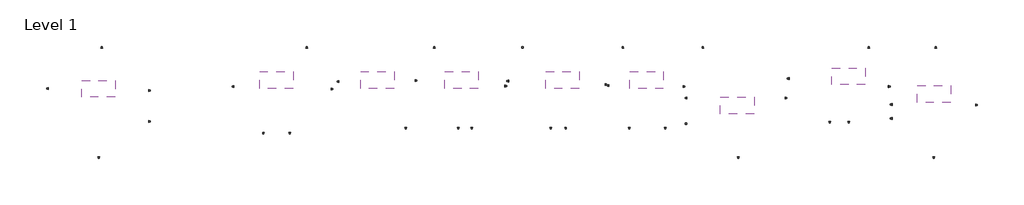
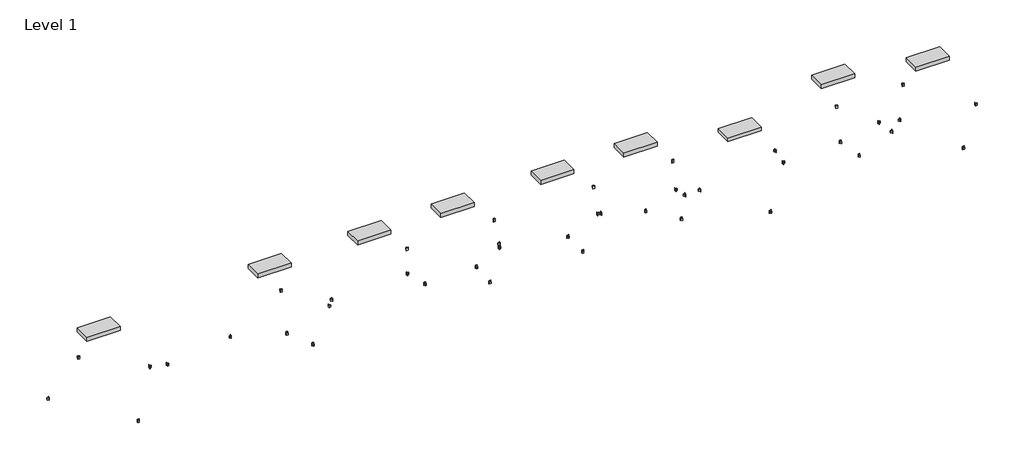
# One storey: 33 proxies, 9 light fixtures, 9 switching devices.
"""IFC4 building model written with IfcOpenShell, lengths in millimetres."""

import ifcopenshell
import ifcopenshell.guid

model = None  # the IFC model being written
_history = None  # IfcOwnerHistory: only IFC2X3 demands one
_inside = {}  # id of a spatial element -> (the spatial element, [elements in it])
_under = {}  # id of a project, library or spatial element -> (it, [spatial elements below it])
_declared = {}  # id of a project -> (the project, [libraries it declares])
_typed = {}  # id of a type object -> (the type object, [elements of that type])
_made_of = {}  # id of a material, layer set ... -> (it, [elements and type objects made of it])


def new_model(schema):
    """Start an empty IFC model of exactly this schema.

    Asked for "IFC4X3", IfcOpenShell would pick the latest addendum, in which some entities
    have other attributes; the version numbers below select the first issue.
    IFC2X3 requires an IfcOwnerHistory on every rooted entity: one is made here for all.
    """
    global model, _history
    if schema == "IFC4X3":
        model = ifcopenshell.file(schema_version=(4, 3, 0, 0))
    else:
        model = ifcopenshell.file(schema=schema)
    _inside.clear()
    _under.clear()
    _declared.clear()
    _typed.clear()
    _made_of.clear()
    _history = None
    if model.schema == "IFC2X3":
        org = make("IfcOrganization", Name="unknown")
        user = make(
            "IfcPersonAndOrganization",
            ThePerson=make("IfcPerson", FamilyName="unknown"),
            TheOrganization=org,
        )
        app = make(
            "IfcApplication",
            ApplicationDeveloper=org,
            Version="unknown",
            ApplicationFullName="unknown",
            ApplicationIdentifier="unknown",
        )
        _history = make(
            "IfcOwnerHistory",
            OwningUser=user,
            OwningApplication=app,
            ChangeAction="ADDED",
            CreationDate=0,
        )
    return model


def make(cls, **values):
    """One entity of the class cls with the attributes given. An attribute that is None is left unset."""
    return model.create_entity(
        cls, **{name: value for name, value in values.items() if value is not None}
    )


def rooted(cls, **values):
    """An entity with a GlobalId (a new one), such as an element, a storey or a relation."""
    return make(cls, GlobalId=ifcopenshell.guid.new(), OwnerHistory=_history, **values)


def si_unit(unit_type, name, prefix=None):
    """IfcSIUnit, for example si_unit("LENGTHUNIT", "METRE", prefix="MILLI")."""
    return make("IfcSIUnit", UnitType=unit_type, Prefix=prefix, Name=name)


def assignment(units):
    """IfcUnitAssignment: the units of a project."""
    return None if units is None else make("IfcUnitAssignment", Units=units)


def point(xyz):
    """IfcCartesianPoint."""
    return None if xyz is None else make("IfcCartesianPoint", Coordinates=xyz)


def direction(xyz):
    """IfcDirection."""
    return None if xyz is None else make("IfcDirection", DirectionRatios=xyz)


def frame(location, z_axis=None, x_axis=None):
    """IfcAxis2Placement3D, a coordinate frame: its origin and axes. An axis left out is left unset."""
    return make(
        "IfcAxis2Placement3D",
        Location=point(location),
        Axis=direction(z_axis),
        RefDirection=direction(x_axis),
    )


def origin():
    """The frame at (0, 0, 0) with its axes left unset."""
    return frame((0.0, 0.0, 0.0))


def origin_with_axes():
    """The frame at (0, 0, 0) with the z axis (0, 0, 1) and the x axis (1, 0, 0) written out."""
    return frame((0.0, 0.0, 0.0), z_axis=(0.0, 0.0, 1.0), x_axis=(1.0, 0.0, 0.0))


def place(relative_to, where):
    """IfcLocalPlacement: puts the frame where relative to a parent placement (None: the world)."""
    return make(
        "IfcLocalPlacement", PlacementRelTo=relative_to, RelativePlacement=where
    )


def context(
    kind, dimensions, precision=None, world=None, true_north=None, identifier=None
):
    """IfcGeometricRepresentationContext, for example the 3D "Model" context."""
    return make(
        "IfcGeometricRepresentationContext",
        ContextIdentifier=identifier,
        ContextType=kind,
        CoordinateSpaceDimension=dimensions,
        Precision=precision,
        WorldCoordinateSystem=world,
        TrueNorth=true_north,
    )


def project(units=None, contexts=None):
    """IfcProject with its units and contexts."""
    return rooted(
        "IfcProject",
        Name="project",
        RepresentationContexts=contexts,
        UnitsInContext=assignment(units),
    )


def spatial(cls, under=None, at=None, **own):
    """A site, building, storey or space (cls), placed at a placement, below another one or the project."""
    s = rooted(cls, ObjectPlacement=at, **own)
    if under is not None:
        _under.setdefault(under.id(), (under, []))[1].append(s)
    return s


def polyline(points):
    """IfcPolyline through the points."""
    return make("IfcPolyline", Points=[point(p) for p in points])


def outline(outer, holes=None, kind="AREA"):
    """IfcArbitraryClosedProfileDef: a profile drawn as a closed curve; with holes, ...WithVoids."""
    if holes is None:
        return make("IfcArbitraryClosedProfileDef", ProfileType=kind, OuterCurve=outer)
    return make(
        "IfcArbitraryProfileDefWithVoids",
        ProfileType=kind,
        OuterCurve=outer,
        InnerCurves=holes,
    )


def extrude(swept, where, along, depth):
    """IfcExtrudedAreaSolid: the profile swept, set in the frame where, extruded along a direction by depth."""
    return make(
        "IfcExtrudedAreaSolid",
        SweptArea=swept,
        Position=where,
        ExtrudedDirection=direction(along),
        Depth=depth,
    )


def shape(context_of_items, identifier, shape_type, items):
    """IfcShapeRepresentation: the items that make up one representation, for example the "Body"."""
    return make(
        "IfcShapeRepresentation",
        ContextOfItems=context_of_items,
        RepresentationIdentifier=identifier,
        RepresentationType=shape_type,
        Items=items,
    )


def source(mapping_origin, context_of_items, identifier, shape_type, items):
    """IfcRepresentationMap: a shape defined once, which mapped items show again and again."""
    return make(
        "IfcRepresentationMap",
        MappingOrigin=mapping_origin,
        MappedRepresentation=shape(context_of_items, identifier, shape_type, items),
    )


def transform(
    local_origin,
    x_axis=None,
    y_axis=None,
    z_axis=None,
    scale=None,
    scale2=None,
    scale3=None,
    uniform=True,
):
    """IfcCartesianTransformationOperator3D, or its non-uniform kind. x_axis, y_axis, z_axis: its Axis1, 2, 3."""
    if uniform:
        return make(
            "IfcCartesianTransformationOperator3D",
            Axis1=direction(x_axis),
            Axis2=direction(y_axis),
            LocalOrigin=point(local_origin),
            Scale=scale,
            Axis3=direction(z_axis),
        )
    return make(
        "IfcCartesianTransformationOperator3DnonUniform",
        Axis1=direction(x_axis),
        Axis2=direction(y_axis),
        LocalOrigin=point(local_origin),
        Scale=scale,
        Axis3=direction(z_axis),
        Scale2=scale2,
        Scale3=scale3,
    )


def mapped(mapping_source, mapping_target):
    """IfcMappedItem: shows the shape of a source again, moved by a transform."""
    return make(
        "IfcMappedItem", MappingSource=mapping_source, MappingTarget=mapping_target
    )


def made_of(thing, what):
    """Note that an element or type object is made of a material, layer set ...; save() writes the relation."""
    if what is not None:
        _made_of.setdefault(what.id(), (what, []))[1].append(thing)
    return thing


def element(
    cls,
    number,
    at=None,
    inside=None,
    cuts=None,
    type_object=None,
    material=None,
    context=None,
    identifier="Body",
    shape_type=None,
    held_by="IfcProductDefinitionShape",
    body=None,
    shapes=None,
    **own,
):
    """One element of the class cls, such as IfcWall. Its Tag is "e" and its number.

    at: its placement. inside: the storey or other place that contains it. cuts: it is an
    opening in that element (IfcRelVoidsElement). A single representation is given by context,
    identifier, shape_type and body (its items); several are given by shapes. held_by: the class
    of the entity that holds the representations. save() writes the other relations.
    """
    e = rooted(cls, Tag="e%d" % number, ObjectPlacement=at, **own)
    if body is not None:
        shapes = [shape(context, identifier, shape_type, body)]
    if shapes is not None:
        e.Representation = make(held_by, Representations=shapes)
    if inside is not None:
        _inside.setdefault(inside.id(), (inside, []))[1].append(e)
    if cuts is not None:
        rooted(
            "IfcRelVoidsElement", RelatingBuildingElement=cuts, RelatedOpeningElement=e
        )
    if type_object is not None:
        _typed.setdefault(type_object.id(), (type_object, []))[1].append(e)
    return made_of(e, material)


def aggregate(whole, parts):
    """IfcRelAggregates: a whole, such as a stair, and the parts it consists of."""
    return rooted("IfcRelAggregates", RelatingObject=whole, RelatedObjects=parts)


def save(model, path):
    """Write the relations noted so far, then the file.

    IfcRelAggregates (storeys below a building ...), IfcRelContainedInSpatialStructure (elements
    in a storey), IfcRelDefinesByType, IfcRelAssociatesMaterial and IfcRelDeclares: one each for
    every whole, place, type object, material and project.
    """
    for whole, parts in _under.values():
        aggregate(whole, parts)
    for where, things in _inside.values():
        rooted(
            "IfcRelContainedInSpatialStructure",
            RelatedElements=things,
            RelatingStructure=where,
        )
    for kind, things in _typed.values():
        rooted("IfcRelDefinesByType", RelatedObjects=things, RelatingType=kind)
    for what, things in _made_of.values():
        rooted("IfcRelAssociatesMaterial", RelatedObjects=things, RelatingMaterial=what)
    for by, libraries in _declared.values():
        rooted("IfcRelDeclares", RelatingContext=by, RelatedDefinitions=libraries)
    model.write(path)


def duplex_receptacle_standard_10251bba(model_context):
    return source(origin(), model_context, "Body", "SweptSolid", [
        extrude(outline(polyline([(19.05, 38.1), (19.05, -38.1), (-19.05, -38.1), (-19.05, 38.1), (19.05, 38.1)])), frame((0.0, 0.0, -53.975), z_axis=(0.0, 0.0, 1.0), x_axis=(1.0, 0.0, 0.0)), (0.0, 0.0, 1.0), 53.975),
        extrude(outline(polyline([(34.925, 57.15), (34.925, -57.15), (-34.925, -57.15), (-34.925, 57.15), (34.925, 57.15)])), origin_with_axes(), (0.0, 0.0, 1.0), 4.7625),
    ])


def troffer_corner_insert_2x4_2lamp_ce2b6327(model_context):
    return source(origin(), model_context, "Body", "SweptSolid", [
        extrude(outline(polyline([(609.6, 304.8), (609.6, -304.8), (-609.6, -304.8), (-609.6, 304.8), (609.6, 304.8)])), frame((0.0, 0.0, 2438.4), z_axis=(0.0, 0.0, 1.0), x_axis=(1.0, 0.0, 0.0)), (0.0, 0.0, 1.0), 152.4),
    ])


model = new_model("IFC4")

# Units and contexts
model_context = context("Model", 3, world=origin())
ifc_project = project(units=[si_unit("LENGTHUNIT", "METRE", prefix="MILLI")], contexts=[model_context])

# Site, building, storey
site = spatial("IfcSite", under=ifc_project)
building = spatial("IfcBuilding", under=site)
storey = spatial("IfcBuildingStorey", under=building, Name="Level 1", Elevation=0.0)

# Proxies
placement = place(None, origin())
duplex_receptacle_standard_shape = duplex_receptacle_standard_10251bba(model_context)
element("IfcBuildingElementProxy", 1, Name="Duplex Receptacle : Standard", ObjectType="Duplex Receptacle : Standard", at=placement, inside=storey, context=model_context, shape_type="MappedRepresentation", body=[
    mapped(duplex_receptacle_standard_shape, transform((-26841.405561, 10177.7602943, 457.2), x_axis=(0.0, 1.0, 0.0), y_axis=(0.0, 0.0, 1.0), z_axis=(1.0, 0.0, 0.0))),
])
element("IfcBuildingElementProxy", 2, Name="Duplex Receptacle : Standard", ObjectType="Duplex Receptacle : Standard", at=placement, inside=storey, context=model_context, shape_type="MappedRepresentation", body=[
    mapped(duplex_receptacle_standard_shape, transform((-24888.0123388, 11651.9338778, 457.2), x_axis=(1.0, 0.0, 0.0), y_axis=(0.0, 0.0, 1.0), z_axis=(0.0, -1.0, 0.0))),
])
element("IfcBuildingElementProxy", 3, Name="Duplex Receptacle : Standard", ObjectType="Duplex Receptacle : Standard", at=placement, inside=storey, context=model_context, shape_type="MappedRepresentation", body=[
    mapped(duplex_receptacle_standard_shape, transform((-23188.568061, 10101.6895591, 457.2), x_axis=(0.0, -1.0, 0.0), y_axis=(0.0, 0.0, 1.0), z_axis=(-1.0, 0.0, 0.0))),
])
element("IfcBuildingElementProxy", 4, Name="Duplex Receptacle : Standard", ObjectType="Duplex Receptacle : Standard", at=placement, inside=storey, context=model_context, shape_type="MappedRepresentation", body=[
    mapped(duplex_receptacle_standard_shape, transform((-24996.730561, 7694.2963778, 457.2), x_axis=(-1.0, 0.0, 0.0), y_axis=(0.0, 0.0, 1.0), z_axis=(0.0, 1.0, 0.0))),
])
element("IfcBuildingElementProxy", 5, Name="Duplex Receptacle : Standard", ObjectType="Duplex Receptacle : Standard", at=placement, inside=storey, context=model_context, shape_type="MappedRepresentation", body=[
    mapped(duplex_receptacle_standard_shape, transform((-17471.1156546, 11651.9338778, 457.2), x_axis=(1.0, 0.0, 0.0), y_axis=(0.0, 0.0, 1.0), z_axis=(0.0, -1.0, 0.0))),
])
element("IfcBuildingElementProxy", 6, Name="Duplex Receptacle : Standard", ObjectType="Duplex Receptacle : Standard", at=placement, inside=storey, context=model_context, shape_type="MappedRepresentation", body=[
    mapped(duplex_receptacle_standard_shape, transform((-16586.155561, 10158.7426105, 457.2), x_axis=(0.0, -1.0, 0.0), y_axis=(0.0, 0.0, 1.0), z_axis=(-1.0, 0.0, 0.0))),
])
element("IfcBuildingElementProxy", 7, Name="Duplex Receptacle : Standard", ObjectType="Duplex Receptacle : Standard", at=placement, inside=storey, context=model_context, shape_type="MappedRepresentation", body=[
    mapped(duplex_receptacle_standard_shape, transform((-18079.6815364, 8586.4713778, 457.2), x_axis=(-1.0, 0.0, 0.0), y_axis=(0.0, 0.0, 1.0), z_axis=(0.0, 1.0, 0.0))),
])
element("IfcBuildingElementProxy", 8, Name="Duplex Receptacle : Standard", ObjectType="Duplex Receptacle : Standard", at=placement, inside=storey, context=model_context, shape_type="MappedRepresentation", body=[
    mapped(duplex_receptacle_standard_shape, transform((-20121.518061, 10253.8310296, 457.2), x_axis=(0.0, 1.0, 0.0), y_axis=(0.0, 0.0, 1.0), z_axis=(1.0, 0.0, 0.0))),
])
element("IfcBuildingElementProxy", 9, Name="Duplex Receptacle : Standard", ObjectType="Duplex Receptacle : Standard", at=placement, inside=storey, context=model_context, shape_type="MappedRepresentation", body=[
    mapped(duplex_receptacle_standard_shape, transform((-16309.930561, 10424.9901838, 457.2), x_axis=(0.0, 1.0, 0.0), y_axis=(0.0, 0.0, 1.0), z_axis=(1.0, 0.0, 0.0))),
])
element("IfcBuildingElementProxy", 10, Name="Duplex Receptacle : Standard", ObjectType="Duplex Receptacle : Standard", at=placement, inside=storey, context=model_context, shape_type="MappedRepresentation", body=[
    mapped(duplex_receptacle_standard_shape, transform((-13539.743061, 10463.0255514, 457.2), x_axis=(0.0, -1.0, 0.0), y_axis=(0.0, 0.0, 1.0), z_axis=(-1.0, 0.0, 0.0))),
])
element("IfcBuildingElementProxy", 11, Name="Duplex Receptacle : Standard", ObjectType="Duplex Receptacle : Standard", at=placement, inside=storey, context=model_context, shape_type="MappedRepresentation", body=[
    mapped(duplex_receptacle_standard_shape, transform((-12849.8184898, 11651.9338778, 457.2), x_axis=(1.0, 0.0, 0.0), y_axis=(0.0, 0.0, 1.0), z_axis=(0.0, -1.0, 0.0))),
])
element("IfcBuildingElementProxy", 12, Name="Duplex Receptacle : Standard", ObjectType="Duplex Receptacle : Standard", at=placement, inside=storey, context=model_context, shape_type="MappedRepresentation", body=[
    mapped(duplex_receptacle_standard_shape, transform((-11499.5629396, 8761.0963778, 457.2), x_axis=(-1.0, 0.0, 0.0), y_axis=(0.0, 0.0, 1.0), z_axis=(0.0, 1.0, 0.0))),
])
element("IfcBuildingElementProxy", 13, Name="Duplex Receptacle : Standard", ObjectType="Duplex Receptacle : Standard", at=placement, inside=storey, context=model_context, shape_type="MappedRepresentation", body=[
    mapped(duplex_receptacle_standard_shape, transform((-9654.8476104, 11651.9338778, 457.2), x_axis=(1.0, 0.0, 0.0), y_axis=(0.0, 0.0, 1.0), z_axis=(0.0, -1.0, 0.0))),
])
element("IfcBuildingElementProxy", 14, Name="Duplex Receptacle : Standard", ObjectType="Duplex Receptacle : Standard", at=placement, inside=storey, context=model_context, shape_type="MappedRepresentation", body=[
    mapped(duplex_receptacle_standard_shape, transform((-8095.3975383, 8761.0963778, 457.2), x_axis=(-1.0, 0.0, 0.0), y_axis=(0.0, 0.0, 1.0), z_axis=(0.0, 1.0, 0.0))),
])
element("IfcBuildingElementProxy", 15, Name="Duplex Receptacle : Standard", ObjectType="Duplex Receptacle : Standard", at=placement, inside=storey, context=model_context, shape_type="MappedRepresentation", body=[
    mapped(duplex_receptacle_standard_shape, transform((-6014.86293, 11651.9338778, 457.2), x_axis=(1.0, 0.0, 0.0), y_axis=(0.0, 0.0, 1.0), z_axis=(0.0, -1.0, 0.0))),
])
element("IfcBuildingElementProxy", 16, Name="Duplex Receptacle : Standard", ObjectType="Duplex Receptacle : Standard", at=placement, inside=storey, context=model_context, shape_type="MappedRepresentation", body=[
    mapped(duplex_receptacle_standard_shape, transform((-6529.343061, 10288.0628604, 457.2), x_axis=(0.0, 1.0, 0.0), y_axis=(0.0, 0.0, 1.0), z_axis=(1.0, 0.0, 0.0))),
])
element("IfcBuildingElementProxy", 17, Name="Duplex Receptacle : Standard", ObjectType="Duplex Receptacle : Standard", at=placement, inside=storey, context=model_context, shape_type="MappedRepresentation", body=[
    mapped(duplex_receptacle_standard_shape, transform((-10286.955561, 10266.192524, 457.2), x_axis=(0.0, -1.0, 0.0), y_axis=(0.0, 0.0, 1.0), z_axis=(-1.0, 0.0, 0.0))),
])
element("IfcBuildingElementProxy", 18, Name="Duplex Receptacle : Standard", ObjectType="Duplex Receptacle : Standard", at=placement, inside=storey, context=model_context, shape_type="MappedRepresentation", body=[
    mapped(duplex_receptacle_standard_shape, transform((-10163.130561, 10441.8382975, 457.2), x_axis=(0.0, 1.0, 0.0), y_axis=(0.0, 0.0, 1.0), z_axis=(1.0, 0.0, 0.0))),
])
element("IfcBuildingElementProxy", 19, Name="Duplex Receptacle : Standard", ObjectType="Duplex Receptacle : Standard", at=placement, inside=storey, context=model_context, shape_type="MappedRepresentation", body=[
    mapped(duplex_receptacle_standard_shape, transform((-6653.168061, 10320.8207341, 457.2), x_axis=(0.0, -1.0, 0.0), y_axis=(0.0, 0.0, 1.0), z_axis=(-1.0, 0.0, 0.0))),
])
element("IfcBuildingElementProxy", 20, Name="Duplex Receptacle : Standard", ObjectType="Duplex Receptacle : Standard", at=placement, inside=storey, context=model_context, shape_type="MappedRepresentation", body=[
    mapped(duplex_receptacle_standard_shape, transform((-4482.8780817, 8761.0963778, 457.2), x_axis=(-1.0, 0.0, 0.0), y_axis=(0.0, 0.0, 1.0), z_axis=(0.0, 1.0, 0.0))),
])
element("IfcBuildingElementProxy", 21, Name="Duplex Receptacle : Standard", ObjectType="Duplex Receptacle : Standard", at=placement, inside=storey, context=model_context, shape_type="MappedRepresentation", body=[
    mapped(duplex_receptacle_standard_shape, transform((-3835.355561, 10242.6680103, 457.2), x_axis=(0.0, -1.0, 0.0), y_axis=(0.0, 0.0, 1.0), z_axis=(-1.0, 0.0, 0.0))),
])
element("IfcBuildingElementProxy", 22, Name="Duplex Receptacle : Standard", ObjectType="Duplex Receptacle : Standard", at=placement, inside=storey, context=model_context, shape_type="MappedRepresentation", body=[
    mapped(duplex_receptacle_standard_shape, transform((-3711.530561, 9840.0251774, 457.2), x_axis=(0.0, 1.0, 0.0), y_axis=(0.0, 0.0, 1.0), z_axis=(1.0, 0.0, 0.0))),
])
element("IfcBuildingElementProxy", 23, Name="Duplex Receptacle : Standard", ObjectType="Duplex Receptacle : Standard", at=placement, inside=storey, context=model_context, shape_type="MappedRepresentation", body=[
    mapped(duplex_receptacle_standard_shape, transform((-3116.7684699, 11651.9338778, 457.2), x_axis=(1.0, 0.0, 0.0), y_axis=(0.0, 0.0, 1.0), z_axis=(0.0, -1.0, 0.0))),
])
element("IfcBuildingElementProxy", 24, Name="Duplex Receptacle : Standard", ObjectType="Duplex Receptacle : Standard", at=placement, inside=storey, context=model_context, shape_type="MappedRepresentation", body=[
    mapped(duplex_receptacle_standard_shape, transform((-128.543061, 9840.0251774, 457.2), x_axis=(0.0, -1.0, 0.0), y_axis=(0.0, 0.0, 1.0), z_axis=(-1.0, 0.0, 0.0))),
])
element("IfcBuildingElementProxy", 25, Name="Duplex Receptacle : Standard", ObjectType="Duplex Receptacle : Standard", at=placement, inside=storey, context=model_context, shape_type="MappedRepresentation", body=[
    mapped(duplex_receptacle_standard_shape, transform((-1836.9394652, 7687.9463778, 457.2), x_axis=(-1.0, 0.0, 0.0), y_axis=(0.0, 0.0, 1.0), z_axis=(0.0, 1.0, 0.0))),
])
element("IfcBuildingElementProxy", 26, Name="Duplex Receptacle : Standard", ObjectType="Duplex Receptacle : Standard", at=placement, inside=storey, context=model_context, shape_type="MappedRepresentation", body=[
    mapped(duplex_receptacle_standard_shape, transform((-4.718061, 10539.7644957, 457.2), x_axis=(0.0, 1.0, 0.0), y_axis=(0.0, 0.0, 1.0), z_axis=(1.0, 0.0, 0.0))),
])
element("IfcBuildingElementProxy", 27, Name="Duplex Receptacle : Standard", ObjectType="Duplex Receptacle : Standard", at=placement, inside=storey, context=model_context, shape_type="MappedRepresentation", body=[
    mapped(duplex_receptacle_standard_shape, transform((2885.9377457, 11651.9338778, 457.2), x_axis=(1.0, 0.0, 0.0), y_axis=(0.0, 0.0, 1.0), z_axis=(0.0, -1.0, 0.0))),
])
element("IfcBuildingElementProxy", 28, Name="Duplex Receptacle : Standard", ObjectType="Duplex Receptacle : Standard", at=placement, inside=storey, context=model_context, shape_type="MappedRepresentation", body=[
    mapped(duplex_receptacle_standard_shape, transform((3605.256939, 10242.0964013, 457.2), x_axis=(0.0, -1.0, 0.0), y_axis=(0.0, 0.0, 1.0), z_axis=(-1.0, 0.0, 0.0))),
])
element("IfcBuildingElementProxy", 29, Name="Duplex Receptacle : Standard", ObjectType="Duplex Receptacle : Standard", at=placement, inside=storey, context=model_context, shape_type="MappedRepresentation", body=[
    mapped(duplex_receptacle_standard_shape, transform((2158.3046261, 8976.9963778, 457.2), x_axis=(-1.0, 0.0, 0.0), y_axis=(0.0, 0.0, 1.0), z_axis=(0.0, 1.0, 0.0))),
])
element("IfcBuildingElementProxy", 30, Name="Duplex Receptacle : Standard", ObjectType="Duplex Receptacle : Standard", at=placement, inside=storey, context=model_context, shape_type="MappedRepresentation", body=[
    mapped(duplex_receptacle_standard_shape, transform((5316.0669937, 11651.9338778, 457.2), x_axis=(1.0, 0.0, 0.0), y_axis=(0.0, 0.0, 1.0), z_axis=(0.0, -1.0, 0.0))),
])
element("IfcBuildingElementProxy", 31, Name="Duplex Receptacle : Standard", ObjectType="Duplex Receptacle : Standard", at=placement, inside=storey, context=model_context, shape_type="MappedRepresentation", body=[
    mapped(duplex_receptacle_standard_shape, transform((5239.9962585, 7687.9463778, 457.2), x_axis=(-1.0, 0.0, 0.0), y_axis=(0.0, 0.0, 1.0), z_axis=(0.0, 1.0, 0.0))),
])
element("IfcBuildingElementProxy", 32, Name="Duplex Receptacle : Standard", ObjectType="Duplex Receptacle : Standard", at=placement, inside=storey, context=model_context, shape_type="MappedRepresentation", body=[
    mapped(duplex_receptacle_standard_shape, transform((3729.081939, 9601.2831426, 457.2), x_axis=(0.0, 1.0, 0.0), y_axis=(0.0, 0.0, 1.0), z_axis=(1.0, 0.0, 0.0))),
])
element("IfcBuildingElementProxy", 33, Name="Duplex Receptacle : Standard", ObjectType="Duplex Receptacle : Standard", at=placement, inside=storey, context=model_context, shape_type="MappedRepresentation", body=[
    mapped(duplex_receptacle_standard_shape, transform((6772.319439, 9582.2654588, 457.2), x_axis=(0.0, -1.0, 0.0), y_axis=(0.0, 0.0, 1.0), z_axis=(-1.0, 0.0, 0.0))),
])

# Light fixtures
troffer_corner_insert_2x4_2lamp_shape = troffer_corner_insert_2x4_2lamp_ce2b6327(model_context)
element("IfcLightFixture", 34, ObjectType="Troffer Corner Insert : 2x4 2Lamp", at=placement, inside=storey, context=model_context, shape_type="MappedRepresentation", body=[
    mapped(troffer_corner_insert_2x4_2lamp_shape, transform((-14911.343061, 10481.1526278, 0.0), x_axis=(1.0, 0.0, 0.0), y_axis=(0.0, 1.0, 0.0), z_axis=(0.0, 0.0, 1.0))),
])
element("IfcLightFixture", 35, ObjectType="Troffer Corner Insert : 2x4 2Lamp", at=placement, inside=storey, context=model_context, shape_type="MappedRepresentation", body=[
    mapped(troffer_corner_insert_2x4_2lamp_shape, transform((-5157.743061, 10481.1526278, 0.0), x_axis=(1.0, 0.0, 0.0), y_axis=(0.0, 1.0, 0.0), z_axis=(0.0, 0.0, 1.0))),
])
element("IfcLightFixture", 36, ObjectType="Troffer Corner Insert : 2x4 3Lamp", at=placement, inside=storey, context=model_context, shape_type="MappedRepresentation", body=[
    mapped(troffer_corner_insert_2x4_2lamp_shape, transform((-25014.986811, 10166.0338778, 0.0), x_axis=(1.0, 0.0, 0.0), y_axis=(0.0, 1.0, 0.0), z_axis=(0.0, 0.0, 1.0))),
])
element("IfcLightFixture", 37, ObjectType="Troffer Corner Insert : 2x4 3Lamp", at=placement, inside=storey, context=model_context, shape_type="MappedRepresentation", body=[
    mapped(troffer_corner_insert_2x4_2lamp_shape, transform((-18568.943061, 10481.1526278, 0.0), x_axis=(1.0, 0.0, 0.0), y_axis=(0.0, 1.0, 0.0), z_axis=(0.0, 0.0, 1.0))),
])
element("IfcLightFixture", 38, ObjectType="Troffer Corner Insert : 2x4 3Lamp", at=placement, inside=storey, context=model_context, shape_type="MappedRepresentation", body=[
    mapped(troffer_corner_insert_2x4_2lamp_shape, transform((-11863.343061, 10481.1526278, 0.0), x_axis=(1.0, 0.0, 0.0), y_axis=(0.0, 1.0, 0.0), z_axis=(0.0, 0.0, 1.0))),
])
element("IfcLightFixture", 39, ObjectType="Troffer Corner Insert : 2x4 3Lamp", at=placement, inside=storey, context=model_context, shape_type="MappedRepresentation", body=[
    mapped(troffer_corner_insert_2x4_2lamp_shape, transform((-8205.743061, 10481.1526278, 0.0), x_axis=(1.0, 0.0, 0.0), y_axis=(0.0, 1.0, 0.0), z_axis=(0.0, 0.0, 1.0))),
])
element("IfcLightFixture", 40, ObjectType="Troffer Corner Insert : 2x4 3Lamp", at=placement, inside=storey, context=model_context, shape_type="MappedRepresentation", body=[
    mapped(troffer_corner_insert_2x4_2lamp_shape, transform((-1874.793061, 9556.4338778, 0.0), x_axis=(1.0, 0.0, 0.0), y_axis=(0.0, 1.0, 0.0), z_axis=(0.0, 0.0, 1.0))),
])
element("IfcLightFixture", 41, ObjectType="Troffer Corner Insert : 2x4 3Lamp", at=placement, inside=storey, context=model_context, shape_type="MappedRepresentation", body=[
    mapped(troffer_corner_insert_2x4_2lamp_shape, transform((2157.456939, 10619.2651278, 0.0), x_axis=(1.0, 0.0, 0.0), y_axis=(0.0, 1.0, 0.0), z_axis=(0.0, 0.0, 1.0))),
])
element("IfcLightFixture", 42, ObjectType="Troffer Corner Insert : 2x4 3Lamp", at=placement, inside=storey, context=model_context, shape_type="MappedRepresentation", body=[
    mapped(troffer_corner_insert_2x4_2lamp_shape, transform((5250.700689, 9974.7401278, 0.0), x_axis=(1.0, 0.0, 0.0), y_axis=(0.0, 1.0, 0.0), z_axis=(0.0, 0.0, 1.0))),
])

# Switching devices
element("IfcSwitchingDevice", 43, ObjectType="Lighting Switches : Single Pole", at=placement, inside=storey, context=model_context, shape_type="MappedRepresentation", body=[
    mapped(duplex_receptacle_standard_shape, transform((-23188.568061, 8978.7321198, 1219.2), x_axis=(0.0, -1.0, 0.0), y_axis=(0.0, 0.0, 1.0), z_axis=(-1.0, 0.0, 0.0))),
])
element("IfcSwitchingDevice", 44, ObjectType="Lighting Switches : Single Pole", at=placement, inside=storey, context=model_context, shape_type="MappedRepresentation", body=[
    mapped(duplex_receptacle_standard_shape, transform((-19037.4398282, 8586.4713778, 1219.2), x_axis=(-1.0, 0.0, 0.0), y_axis=(0.0, 0.0, 1.0), z_axis=(0.0, 1.0, 0.0))),
])
element("IfcSwitchingDevice", 45, ObjectType="Lighting Switches : Single Pole", at=placement, inside=storey, context=model_context, shape_type="MappedRepresentation", body=[
    mapped(duplex_receptacle_standard_shape, transform((-13875.6530524, 8761.0963778, 1219.2), x_axis=(-1.0, 0.0, 0.0), y_axis=(0.0, 0.0, 1.0), z_axis=(0.0, 1.0, 0.0))),
])
element("IfcSwitchingDevice", 46, ObjectType="Lighting Switches : Single Pole", at=placement, inside=storey, context=model_context, shape_type="MappedRepresentation", body=[
    mapped(duplex_receptacle_standard_shape, transform((-11984.6230629, 8761.0963778, 1219.2), x_axis=(-1.0, 0.0, 0.0), y_axis=(0.0, 0.0, 1.0), z_axis=(0.0, 1.0, 0.0))),
])
element("IfcSwitchingDevice", 47, ObjectType="Lighting Switches : Single Pole", at=placement, inside=storey, context=model_context, shape_type="MappedRepresentation", body=[
    mapped(duplex_receptacle_standard_shape, transform((-8633.5694199, 8761.0963778, 1219.2), x_axis=(-1.0, 0.0, 0.0), y_axis=(0.0, 0.0, 1.0), z_axis=(0.0, 1.0, 0.0))),
])
element("IfcSwitchingDevice", 48, ObjectType="Lighting Switches : Single Pole", at=placement, inside=storey, context=model_context, shape_type="MappedRepresentation", body=[
    mapped(duplex_receptacle_standard_shape, transform((-5788.2337532, 8761.0963778, 1219.2), x_axis=(-1.0, 0.0, 0.0), y_axis=(0.0, 0.0, 1.0), z_axis=(0.0, 1.0, 0.0))),
])
element("IfcSwitchingDevice", 49, ObjectType="Lighting Switches : Single Pole", at=placement, inside=storey, context=model_context, shape_type="MappedRepresentation", body=[
    mapped(duplex_receptacle_standard_shape, transform((-3711.530561, 8900.4069177, 1219.2), x_axis=(0.0, 1.0, 0.0), y_axis=(0.0, 0.0, 1.0), z_axis=(1.0, 0.0, 0.0))),
])
element("IfcSwitchingDevice", 50, ObjectType="Lighting Switches : Single Pole", at=placement, inside=storey, context=model_context, shape_type="MappedRepresentation", body=[
    mapped(duplex_receptacle_standard_shape, transform((1476.8031339, 8976.9963778, 1219.2), x_axis=(-1.0, 0.0, 0.0), y_axis=(0.0, 0.0, 1.0), z_axis=(0.0, 1.0, 0.0))),
])
element("IfcSwitchingDevice", 51, ObjectType="Lighting Switches : Single Pole", at=placement, inside=storey, context=model_context, shape_type="MappedRepresentation", body=[
    mapped(duplex_receptacle_standard_shape, transform((3729.081939, 9084.5469531, 1219.2), x_axis=(0.0, 1.0, 0.0), y_axis=(0.0, 0.0, 1.0), z_axis=(1.0, 0.0, 0.0))),
])

save(model, "model.ifc")
